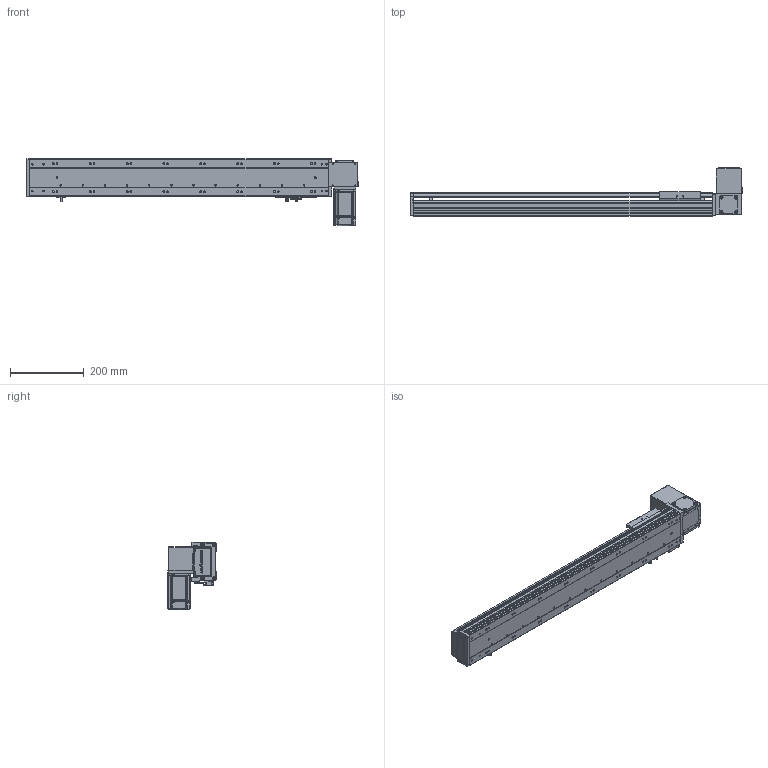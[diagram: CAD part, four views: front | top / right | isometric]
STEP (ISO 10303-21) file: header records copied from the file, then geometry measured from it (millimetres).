
FILE_DESCRIPTION (( 'STEP AP203' ), '1' );
FILE_NAME ('RY100-T-300-UL.SLDASM_600.step', '2024-04-25T08:39:29', ( '盈信电脑' ), ( '东莞市道滘镇水果街19号' ), 'SwSTEP 2.0', 'SolidWorks 2016', '' );
FILE_SCHEMA (( 'CONFIG_CONTROL_DESIGN' ));
Length unit declared in the file: millimetre
Products named in the file (15): RY100-T左右折电机安装板; RY100綴裔啣; 覜茼ん672; RY100-T翋肮祭謫裔啣; 1; RY100-T肮祭謫翋盓傅釱; 滅袉蝶18-10; RY100-T肮祭謫臏賑輸; RY100-T粣創揤踡裔; RY100-T-300-RK倰第奻裔_600; RY100-T翋肮祭謫裔啣2; RY100俋离覜茼え; RY80-T肮祭謫奻殏俋欶; RY100-T-300-UL.SLDASM_600; RY100-T-300-RK倰第菁釱_600
Assembly tree (17 placements, depth 2):
  RY100-T-300-UL.SLDASM_600
    RY100-T-300-RK倰第菁釱_600
    RY100-T-300-RK倰第奻裔_600
    RY100-T肮祭謫臏賑輸
    RY100綴裔啣
    覜茼ん672  x3
    RY100俋离覜茼え
    RY100-T肮祭謫翋盓傅釱
    滅袉蝶18-10  x2
    RY100-T翋肮祭謫裔啣2
    RY100-T翋肮祭謫裔啣
    1
    RY100-T左右折电机安装板
    RY80-T肮祭謫奻殏俋欶
    RY100-T粣創揤踡裔
Bounding box: 900 x 130.5 x 182.5 mm (x, y, z)
Volume: 1985615.5 mm3; surface area: 798475.7 mm2
Topology: 17 solids, 17 shells, 2209 faces, 6144 edges, 3990 vertices
Faces by surface type: plane 1207, cylinder 791, cone 133, bspline 78
Entity records: 71202 total; most frequent: CARTESIAN_POINT 17243, ORIENTED_EDGE 11120, DIRECTION 10566, EDGE_CURVE 5560, VERTEX_POINT 3658, LINE 3602, VECTOR 3602, AXIS2_PLACEMENT_3D 3482
